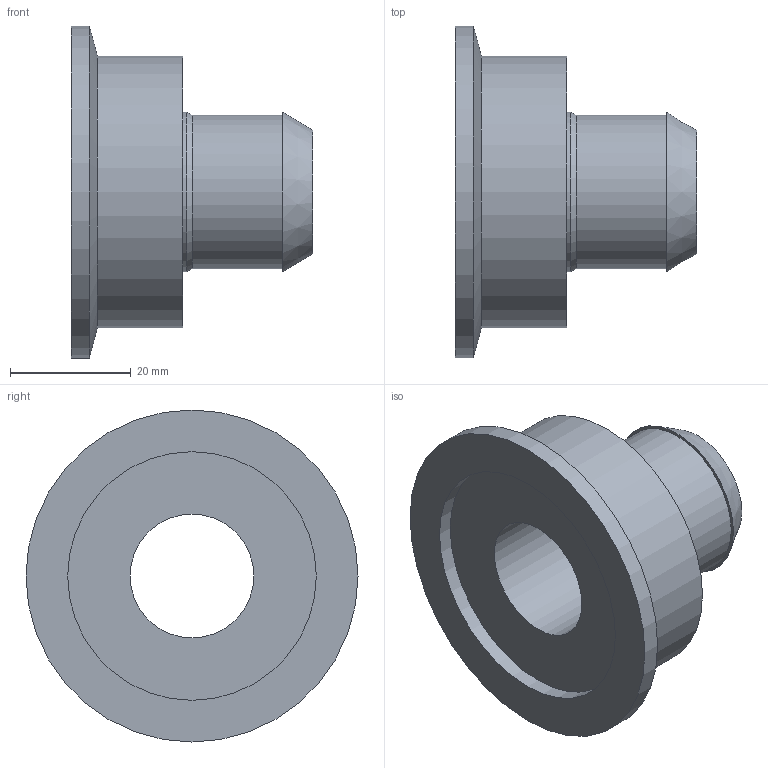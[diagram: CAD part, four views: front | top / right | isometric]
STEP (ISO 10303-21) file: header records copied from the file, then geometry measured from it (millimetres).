
FILE_DESCRIPTION( ( 'Unknown' ), '1' );
FILE_NAME( 'X:/Daten ( aktueller Bestand )/Projekte und Zeichnungen/Solid Edge/6 Verbindungsbauteile/Alu/2068.stp', 'Unknown', ( 'Unknown' ), ( 'Unknown' ), 'XStep 1.0', 'Unknown', ' ' );
FILE_SCHEMA( ( 'automotive_design' ) );
Length unit declared in the file: millimetre
Products named in the file (1): 1
Bounding box: 40 x 55 x 55 mm (x, y, z)
Volume: 25791 mm3; surface area: 11640.3 mm2
Topology: 1 solids, 1 shells, 15 faces, 25 edges, 15 vertices
Faces by surface type: cylinder 7, plane 5, cone 3
Full cylindrical faces by diameter (mm): 20.5 x1, 25.5 x1, 26.5 x1, 35 x1, 41.2 x1, 45 x1, 55 x1
Entity records: 444 total; most frequent: DIRECTION 62, CARTESIAN_POINT 46, AXIS2_PLACEMENT_3D 31, EDGE_LOOP 30, ORIENTED_EDGE 30, FACE_OUTER_BOUND 22, STYLED_ITEM 15, PRESENTATION_STYLE_ASSIGNMENT 15
